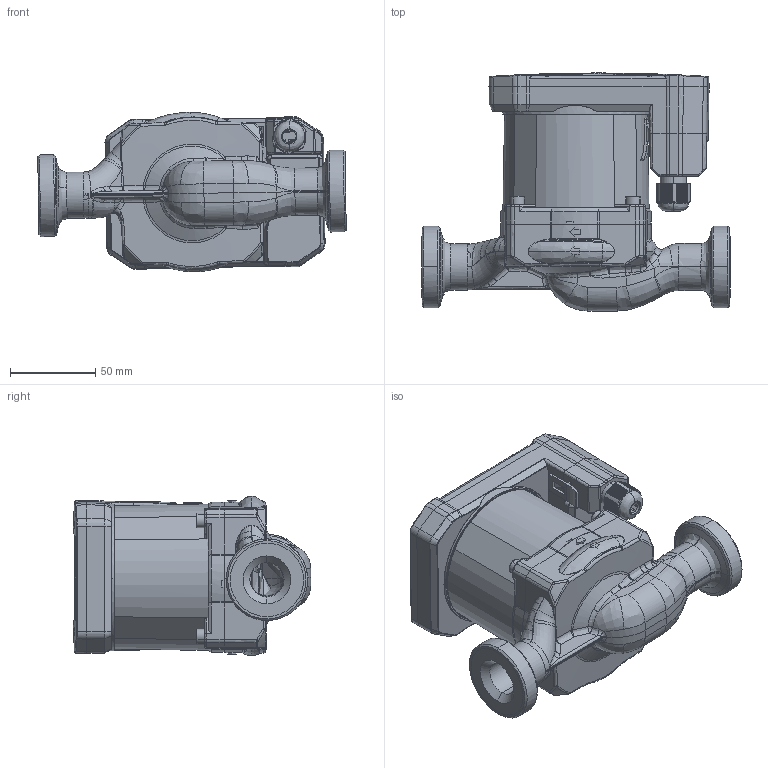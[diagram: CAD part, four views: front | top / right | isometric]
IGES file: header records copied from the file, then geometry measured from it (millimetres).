
Global section: file name: 015P1301(RWE 25-60S); native system: AutoCAD 2021 — Русский (Russian),62HAutod; preprocessor: esk Translation Framework DWG producer (atf_dwg_producer); organization: unknown; date: 20250820.182359; units: millimetre
Bounding box: 180.7 x 139.4 x 93.28 mm (x, y, z)
Volume: 177262.5 mm3; surface area: 212692 mm2
Topology: 10 solids, 10 shells, 4041 faces, 16485 edges, 14068 vertices
Faces by surface type: bspline 3392, revolution 649
